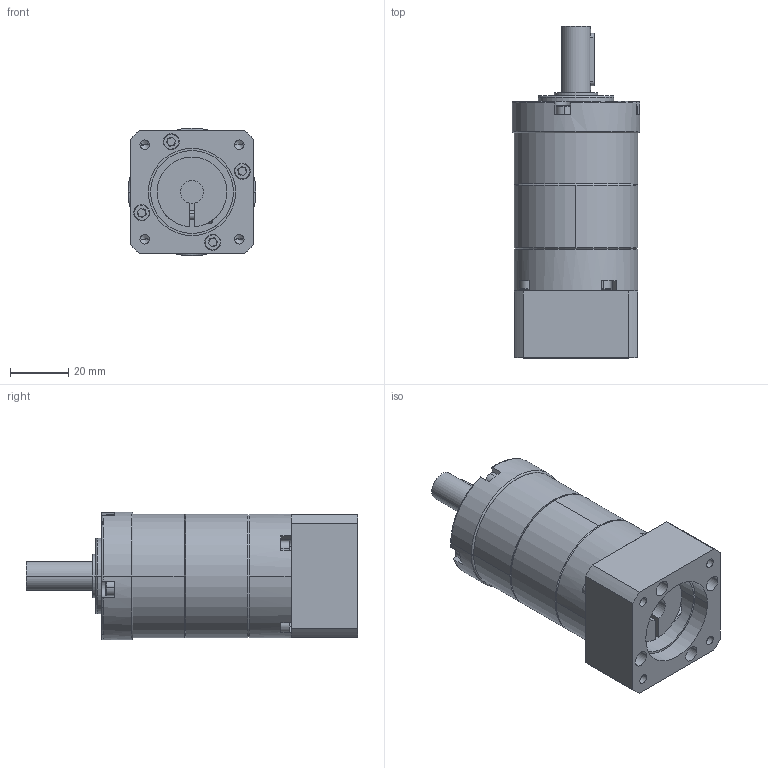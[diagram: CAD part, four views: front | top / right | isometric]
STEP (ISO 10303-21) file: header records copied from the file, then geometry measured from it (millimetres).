
FILE_DESCRIPTION (( 'STEP AP203' ), '1' );
FILE_NAME ('1G1XD.030042.112.STEP', '2020-08-31T02:20:15', ( '' ), ( '' ), 'SwSTEP 2.0', 'SolidWorks 2010', '' );
FILE_SCHEMA (( 'CONFIG_CONTROL_DESIGN' ));
Length unit declared in the file: millimetre
Products named in the file (11): M3､ｺ､ｻｨ､ﾁｳｵｷ[ｼﾒｲﾕ､ﾆ]06~60mm_45mm; M3､ｺ､ｻｨ､ﾁｳｵｷ[ｼﾒｲﾕ､ﾆ]06~60mm_10mm; PNS40-B(模型)_5.成品; 雙圓鍵3x3X18; 234BN11214_4.成品; M3､ｺ､ｻｨ､ﾁｳｵｷ[ｼﾒｲﾕ､ﾆ]06~60mm_12mm; 1G1XD.030042.112; M3､ｺ､ｻｨ､ﾁｳｵｷ[ｼﾒｲﾕ､ﾆ]06~60mm_14mm; PAN17-BP(雙段模型)_1.A8; PNS40-EB(縮短模型)_5.成品; PNS40-FP(縮短模型)_4.成品
Assembly tree (19 placements, depth 2):
  1G1XD.030042.112
    M3､ｺ､ｻｨ､ﾁｳｵｷ[ｼﾒｲﾕ､ﾆ]06~60mm_45mm  x4
    M3､ｺ､ｻｨ､ﾁｳｵｷ[ｼﾒｲﾕ､ﾆ]06~60mm_12mm
    M3､ｺ､ｻｨ､ﾁｳｵｷ[ｼﾒｲﾕ､ﾆ]06~60mm_10mm  x4
    M3､ｺ､ｻｨ､ﾁｳｵｷ[ｼﾒｲﾕ､ﾆ]06~60mm_14mm  x4
    234BN11214_4.成品
    PNS40-EB(縮短模型)_5.成品
    雙圓鍵3x3X18
    PNS40-B(模型)_5.成品
    PNS40-FP(縮短模型)_4.成品
    PAN17-BP(雙段模型)_1.A8
Bounding box: 44 x 114.25 x 44 mm (x, y, z)
Volume: 119563.5 mm3; surface area: 43109.7 mm2
Topology: 19 solids, 19 shells, 631 faces, 1502 edges, 922 vertices
Faces by surface type: plane 282, cylinder 228, cone 102, torus 19
Entity records: 14257 total; most frequent: CARTESIAN_POINT 2515, DIRECTION 2362, ORIENTED_EDGE 2036, EDGE_CURVE 1018, AXIS2_PLACEMENT_3D 941, VERTEX_POINT 652, CIRCLE 504, EDGE_LOOP 492
